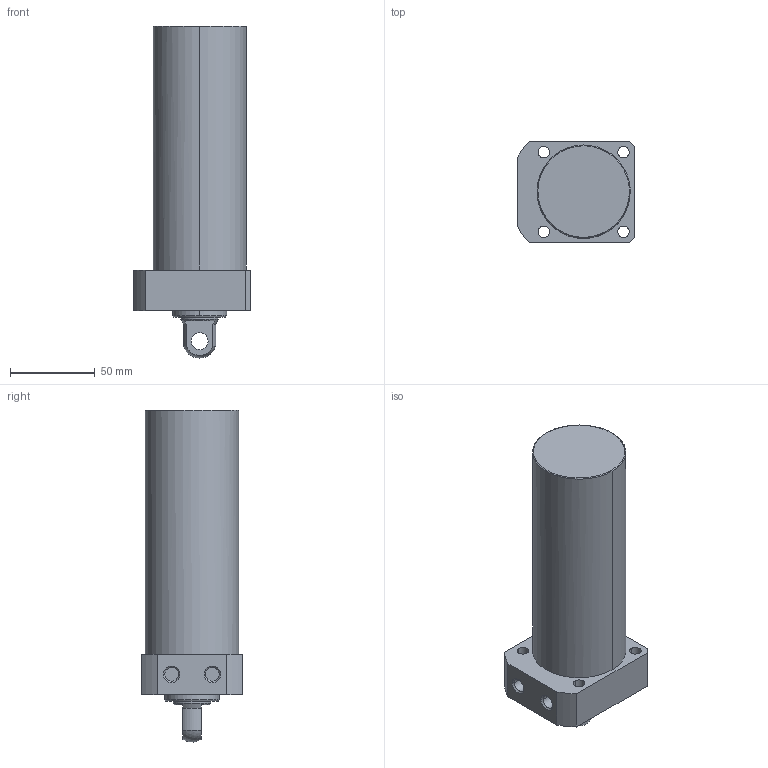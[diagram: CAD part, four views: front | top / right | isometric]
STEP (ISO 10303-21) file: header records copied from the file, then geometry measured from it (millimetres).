
FILE_DESCRIPTION((' '),'2;1');
FILE_NAME( 'TLLR-055CP-115.STEP.stp', '2025-10-24T16:34:52', (' '), ('--- Datakit www.datakit.com---'), ' Datakit CrossCadWare V2024.1 Dec 21 2023', 'Mastercam 2025', ' ');
FILE_SCHEMA(('AUTOMOTIVE_DESIGN { 1 0 10303 214 1 1 1 1 }'));
Length unit declared in the file: millimetre
Products named in the file (1): TLLR-055CP-115
Bounding box: 69 x 60 x 195.93 mm (x, y, z)
Volume: 441643.3 mm3; surface area: 43099.5 mm2
Topology: 1 solids, 1 shells, 57 faces, 164 edges, 116 vertices
Faces by surface type: cylinder 28, plane 18, cone 8, torus 2, sphere 1
Entity records: 2006 total; most frequent: DIRECTION 378, CARTESIAN_POINT 350, ORIENTED_EDGE 328, EDGE_CURVE 164, AXIS2_PLACEMENT_3D 160, VERTEX_POINT 116, CIRCLE 102, EDGE_LOOP 74
